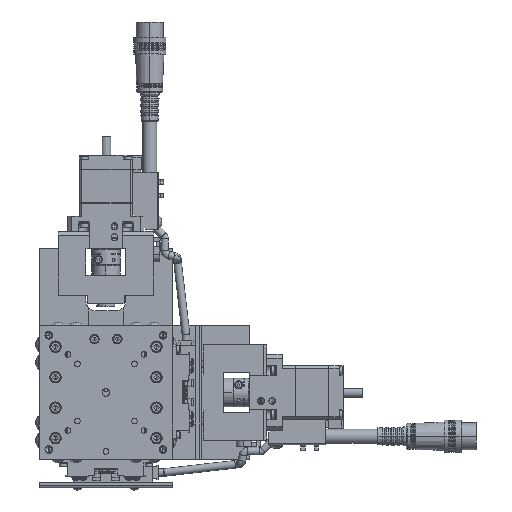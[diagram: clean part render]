
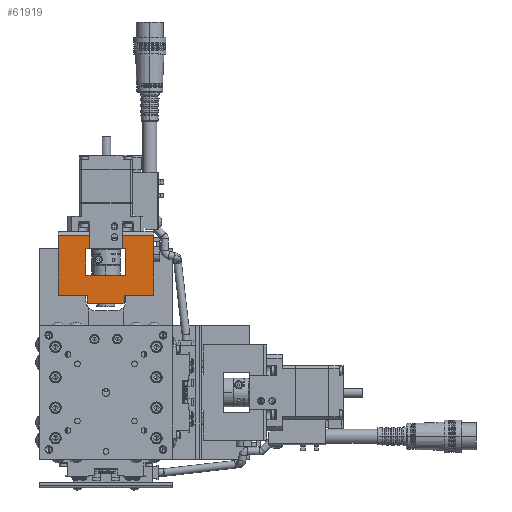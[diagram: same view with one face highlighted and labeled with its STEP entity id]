
A CAD part, top view. The second image highlights one B-rep face of the part: STEP entity #61919.
In plain terms, the highlighted planar face has unit normal (0, 0, 1).
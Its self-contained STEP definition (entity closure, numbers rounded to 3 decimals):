
#1045 = LINE ( 'NONE', #16373, #45506 ) ;
#1306 = DIRECTION ( 'NONE',  ( 1., 0., 0. ) ) ;
#1922 = VERTEX_POINT ( 'NONE', #10709 ) ;
#2932 = CARTESIAN_POINT ( 'NONE',  ( -46.5, 9.5, 19.5 ) ) ;
#4089 = EDGE_CURVE ( 'NONE', #57245, #10530, #27062, .T. ) ;
#4738 = VECTOR ( 'NONE', #83672, 1000. ) ;
#5373 = EDGE_CURVE ( 'NONE', #101004, #1922, #68002, .T. ) ;
#6463 = LINE ( 'NONE', #16424, #8009 ) ;
#7667 = CARTESIAN_POINT ( 'NONE',  ( -46.5, -9.5, 19.5 ) ) ;
#7763 = EDGE_CURVE ( 'NONE', #82590, #55229, #126685, .T. ) ;
#7795 = CARTESIAN_POINT ( 'NONE',  ( -75.5, 8.7, 19.5 ) ) ;
#8009 = VECTOR ( 'NONE', #26700, 1000. ) ;
#8318 = CARTESIAN_POINT ( 'NONE',  ( -61.5, 10.5, 19.5 ) ) ;
#10479 = DIRECTION ( 'NONE',  ( 0., 1., 0. ) ) ;
#10530 = VERTEX_POINT ( 'NONE', #32190 ) ;
#10709 = CARTESIAN_POINT ( 'NONE',  ( -75.5, -8.7, 19.5 ) ) ;
#11196 = DIRECTION ( 'NONE',  ( 0., -1., 0. ) ) ;
#11681 = ORIENTED_EDGE ( 'NONE', *, *, #61005, .F. ) ;
#13390 = CARTESIAN_POINT ( 'NONE',  ( -75.5, 8.7, 19.5 ) ) ;
#16373 = CARTESIAN_POINT ( 'NONE',  ( -82.5, -25., 19.5 ) ) ;
#16424 = CARTESIAN_POINT ( 'NONE',  ( -61.5, 18.75, 19.5 ) ) ;
#17809 = EDGE_CURVE ( 'NONE', #57245, #1922, #32088, .T. ) ;
#17818 = CARTESIAN_POINT ( 'NONE',  ( -80., -8.7, 19.5 ) ) ;
#18154 = ORIENTED_EDGE ( 'NONE', *, *, #25879, .F. ) ;
#18590 = VECTOR ( 'NONE', #123412, 1000. ) ;
#19188 = DIRECTION ( 'NONE',  ( 0., 1., 0. ) ) ;
#24769 = CARTESIAN_POINT ( 'NONE',  ( -82.5, -25., 19.5 ) ) ;
#25879 = EDGE_CURVE ( 'NONE', #38034, #33090, #77325, .T. ) ;
#26700 = DIRECTION ( 'NONE',  ( 0., -1., 0. ) ) ;
#27062 = LINE ( 'NONE', #51241, #4738 ) ;
#27100 = VERTEX_POINT ( 'NONE', #7667 ) ;
#27634 = CARTESIAN_POINT ( 'NONE',  ( -51., -9.5, 19.5 ) ) ;
#28282 = VERTEX_POINT ( 'NONE', #7795 ) ;
#29980 = EDGE_CURVE ( 'NONE', #28282, #78357, #47794, .T. ) ;
#31572 = ORIENTED_EDGE ( 'NONE', *, *, #35128, .T. ) ;
#32088 = LINE ( 'NONE', #41986, #81430 ) ;
#32190 = CARTESIAN_POINT ( 'NONE',  ( -61.5, -10.5, 19.5 ) ) ;
#32217 = CARTESIAN_POINT ( 'NONE',  ( -51., 18.75, 19.5 ) ) ;
#32224 = DIRECTION ( 'NONE',  ( 0., 1., 0. ) ) ;
#33090 = VERTEX_POINT ( 'NONE', #120985 ) ;
#35128 = EDGE_CURVE ( 'NONE', #93928, #82590, #53376, .T. ) ;
#35134 = ORIENTED_EDGE ( 'NONE', *, *, #5373, .F. ) ;
#37482 = CARTESIAN_POINT ( 'NONE',  ( -82.5, 8.7, 19.5 ) ) ;
#38034 = VERTEX_POINT ( 'NONE', #85486 ) ;
#40790 = VERTEX_POINT ( 'NONE', #8318 ) ;
#41622 = VECTOR ( 'NONE', #90172, 1000. ) ;
#41986 = CARTESIAN_POINT ( 'NONE',  ( -75.5, -25., 19.5 ) ) ;
#44996 = ORIENTED_EDGE ( 'NONE', *, *, #7763, .T. ) ;
#45506 = VECTOR ( 'NONE', #47897, 1000. ) ;
#45515 = ORIENTED_EDGE ( 'NONE', *, *, #4089, .F. ) ;
#47794 = LINE ( 'NONE', #63054, #112917 ) ;
#47849 = LINE ( 'NONE', #68908, #79637 ) ;
#47897 = DIRECTION ( 'NONE',  ( 0., -1., 0. ) ) ;
#48550 = EDGE_LOOP ( 'NONE', ( #18154, #111665, #64933, #119621, #111846, #66416, #45515, #114209, #35134, #108881, #31572, #44996, #59972, #87321, #11681, #49808 ) ) ;
#49808 = ORIENTED_EDGE ( 'NONE', *, *, #89742, .T. ) ;
#50286 = VECTOR ( 'NONE', #89424, 1000. ) ;
#51241 = CARTESIAN_POINT ( 'NONE',  ( -75.5, -10.5, 19.5 ) ) ;
#52369 = PLANE ( 'NONE',  #89187 ) ;
#53376 = LINE ( 'NONE', #55900, #123333 ) ;
#55229 = VERTEX_POINT ( 'NONE', #27634 ) ;
#55900 = CARTESIAN_POINT ( 'NONE',  ( -75.5, -25., 19.5 ) ) ;
#57245 = VERTEX_POINT ( 'NONE', #66673 ) ;
#59907 = VECTOR ( 'NONE', #10479, 1000. ) ;
#59972 = ORIENTED_EDGE ( 'NONE', *, *, #87925, .F. ) ;
#61005 = EDGE_CURVE ( 'NONE', #64589, #72080, #103418, .T. ) ;
#61919 = ADVANCED_FACE ( 'NONE', ( #84515 ), #52369, .T. ) ;
#63054 = CARTESIAN_POINT ( 'NONE',  ( -80., 8.7, 19.5 ) ) ;
#63936 = DIRECTION ( 'NONE',  ( -1., 0., 0. ) ) ;
#64589 = VERTEX_POINT ( 'NONE', #108634 ) ;
#64933 = ORIENTED_EDGE ( 'NONE', *, *, #29980, .F. ) ;
#65703 = DIRECTION ( 'NONE',  ( 1., 0., 0. ) ) ;
#66416 = ORIENTED_EDGE ( 'NONE', *, *, #120310, .T. ) ;
#66673 = CARTESIAN_POINT ( 'NONE',  ( -75.5, -10.5, 19.5 ) ) ;
#67965 = CARTESIAN_POINT ( 'NONE',  ( -48.75, -9.5, 19.5 ) ) ;
#68002 = LINE ( 'NONE', #17818, #91877 ) ;
#68908 = CARTESIAN_POINT ( 'NONE',  ( -51., 18.75, 19.5 ) ) ;
#72080 = VERTEX_POINT ( 'NONE', #2932 ) ;
#75015 = EDGE_CURVE ( 'NONE', #72080, #27100, #120425, .T. ) ;
#75797 = CARTESIAN_POINT ( 'NONE',  ( -82.5, -8.7, 19.5 ) ) ;
#76408 = EDGE_CURVE ( 'NONE', #101004, #93928, #1045, .T. ) ;
#77025 = VERTEX_POINT ( 'NONE', #130847 ) ;
#77325 = LINE ( 'NONE', #131146, #50286 ) ;
#78357 = VERTEX_POINT ( 'NONE', #37482 ) ;
#79637 = VECTOR ( 'NONE', #19188, 1000. ) ;
#81430 = VECTOR ( 'NONE', #32224, 1000. ) ;
#82187 = LINE ( 'NONE', #113644, #18590 ) ;
#82590 = VERTEX_POINT ( 'NONE', #108521 ) ;
#83672 = DIRECTION ( 'NONE',  ( 1., 0., 0. ) ) ;
#84479 = DIRECTION ( 'NONE',  ( 0., 1., 0. ) ) ;
#84515 = FACE_OUTER_BOUND ( 'NONE', #48550, .T. ) ;
#85486 = CARTESIAN_POINT ( 'NONE',  ( -82.5, 25., 19.5 ) ) ;
#87321 = ORIENTED_EDGE ( 'NONE', *, *, #75015, .F. ) ;
#87925 = EDGE_CURVE ( 'NONE', #27100, #55229, #124409, .T. ) ;
#89187 = AXIS2_PLACEMENT_3D ( 'NONE', #94542, #102546, #1306 ) ;
#89310 = CARTESIAN_POINT ( 'NONE',  ( -75.5, 10.5, 19.5 ) ) ;
#89424 = DIRECTION ( 'NONE',  ( 1., 0., 0. ) ) ;
#89742 = EDGE_CURVE ( 'NONE', #64589, #33090, #47849, .T. ) ;
#90172 = DIRECTION ( 'NONE',  ( 1., 0., 0. ) ) ;
#91877 = VECTOR ( 'NONE', #99508, 1000. ) ;
#93035 = DIRECTION ( 'NONE',  ( 1., 0., 0. ) ) ;
#93928 = VERTEX_POINT ( 'NONE', #24769 ) ;
#94542 = CARTESIAN_POINT ( 'NONE',  ( -75.5, 25., 19.5 ) ) ;
#95675 = LINE ( 'NONE', #89310, #41622 ) ;
#99508 = DIRECTION ( 'NONE',  ( 1., 0., 0. ) ) ;
#101004 = VERTEX_POINT ( 'NONE', #75797 ) ;
#102169 = EDGE_CURVE ( 'NONE', #77025, #40790, #95675, .T. ) ;
#102546 = DIRECTION ( 'NONE',  ( 0., 0., 1. ) ) ;
#102629 = CARTESIAN_POINT ( 'NONE',  ( -46.5, 0., 19.5 ) ) ;
#103221 = CARTESIAN_POINT ( 'NONE',  ( -48.75, 9.5, 19.5 ) ) ;
#103418 = LINE ( 'NONE', #103221, #111457 ) ;
#104276 = LINE ( 'NONE', #13390, #110651 ) ;
#105444 = VECTOR ( 'NONE', #118582, 1000. ) ;
#107685 = VECTOR ( 'NONE', #11196, 1000. ) ;
#108521 = CARTESIAN_POINT ( 'NONE',  ( -51., -25., 19.5 ) ) ;
#108634 = CARTESIAN_POINT ( 'NONE',  ( -51., 9.5, 19.5 ) ) ;
#108881 = ORIENTED_EDGE ( 'NONE', *, *, #76408, .T. ) ;
#110651 = VECTOR ( 'NONE', #84479, 1000. ) ;
#111457 = VECTOR ( 'NONE', #93035, 1000. ) ;
#111665 = ORIENTED_EDGE ( 'NONE', *, *, #117772, .T. ) ;
#111846 = ORIENTED_EDGE ( 'NONE', *, *, #102169, .T. ) ;
#112917 = VECTOR ( 'NONE', #63936, 1000. ) ;
#113644 = CARTESIAN_POINT ( 'NONE',  ( -82.5, 8.7, 19.5 ) ) ;
#114209 = ORIENTED_EDGE ( 'NONE', *, *, #17809, .T. ) ;
#117772 = EDGE_CURVE ( 'NONE', #38034, #78357, #82187, .T. ) ;
#118582 = DIRECTION ( 'NONE',  ( -1., 0., 0. ) ) ;
#119621 = ORIENTED_EDGE ( 'NONE', *, *, #122737, .T. ) ;
#120310 = EDGE_CURVE ( 'NONE', #40790, #10530, #6463, .T. ) ;
#120425 = LINE ( 'NONE', #102629, #107685 ) ;
#120985 = CARTESIAN_POINT ( 'NONE',  ( -51., 25., 19.5 ) ) ;
#122737 = EDGE_CURVE ( 'NONE', #28282, #77025, #104276, .T. ) ;
#123333 = VECTOR ( 'NONE', #65703, 1000. ) ;
#123412 = DIRECTION ( 'NONE',  ( 0., -1., 0. ) ) ;
#124409 = LINE ( 'NONE', #67965, #105444 ) ;
#126685 = LINE ( 'NONE', #32217, #59907 ) ;
#130847 = CARTESIAN_POINT ( 'NONE',  ( -75.5, 10.5, 19.5 ) ) ;
#131146 = CARTESIAN_POINT ( 'NONE',  ( -75.5, 25., 19.5 ) ) ;
